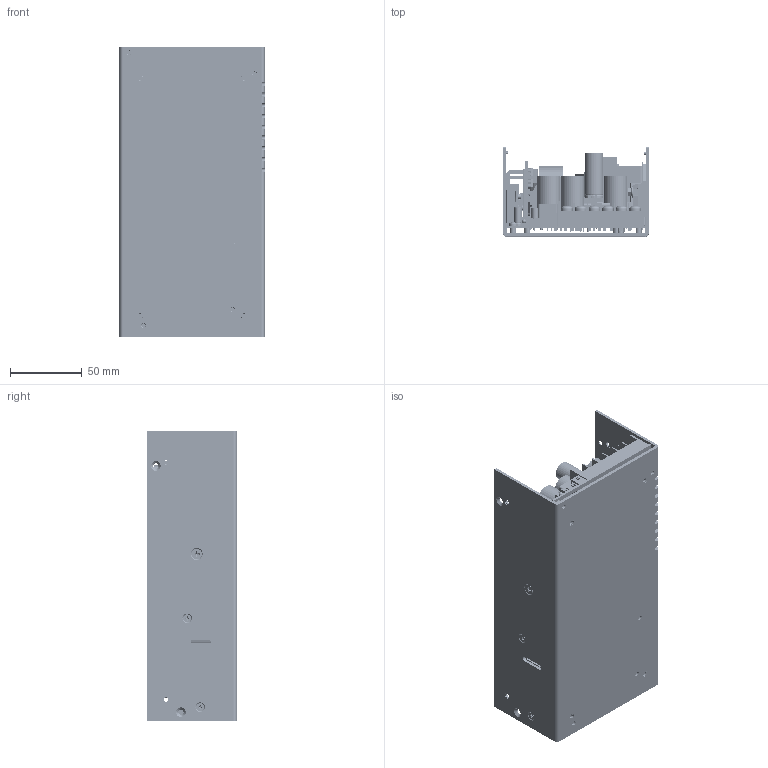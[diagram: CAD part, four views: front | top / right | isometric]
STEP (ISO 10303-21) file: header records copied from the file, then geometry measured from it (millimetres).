
FILE_DESCRIPTION (( 'STEP AP203' ), '1' );
FILE_NAME ('FINAL ASSY SHP650 U CHANNEL.STEP', '2010-11-01T07:43:05', ( 'Leonard Torio' ), ( 'Hewlett-Packard Company' ), 'SwSTEP 2.0', 'SolidWorks 2010', '' );
FILE_SCHEMA (( 'CONFIG_CONTROL_DESIGN' ));
Length unit declared in the file: millimetre
Products named in the file (104): Retainer Metric 2X TO-218 Package (10001662); INSULATOR  OUTPUT DIODE(1000XXXX); SCREW M3_5X12 PFH 90 DEG CLR (10001674) ; INSULATOR BUSHING (300045); INSULATOR SLEEVE TO-247 (10000709); FINAL ASSY SHP650 U CHANNEL; 10007596 (U Channel Formed); CFLM3-1; ASSY PCB MAINBOARD SHP650 (10007586); PCB MAINBOARD SHP650 (10007774); ASSY HEATSINK DIODE COMPLETE; HTSK SECONDARY (10007599); INSUL DIODE (10007766); BUSBAR SECONDARY (10007600); TO247_3P; BUSBAR SECONDARY 5( 10008581); BUSBAR SECONDARY 2 (10007601); ASSY PRIMARY HTSK; 10007598; TO247 WITH TUBE; T0220 WITH TUBE; HTSK BRIDGE; HEATSINK BRIDGE (10007597); HTSK LEG CLIP(10007602); Bridge Rectifier_D20XB60; Connector_SIP_1X19P_2mm_ RA; SOIC PACKAGE; SO14 PACKAGE; OPTO_SMD; PCB_CAP BOARD; Capacitor Elec_13mm D; BBAR SECONDARY 3 (10007767); TERMINAL BLOCK 3P 3_5MM SCREW 9_5MM VER (10007696)_3P; TAPE EXTERNAL; Part1^ASSY TRF EER42 TYPE1; TERMINAL BLOCK 6P M4 SCREW 9_5MM CTR VER (10007698)_6P; Conn_JST_S10B-PHDSS-B_Vertical; AUX TRF; TRANSFORMER CURENT SENSE; GATE DRIVE TRF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
Assembly tree (172 placements, depth 5):
  FINAL ASSY SHP650 U CHANNEL
    10007596 (U Channel Formed)
      CFLM3-1  x8
      10007596 (U Channel Formed)
      CFSOM3-6  x5
    SCREW M3X6MM PPH SQ CONE CLR STL Z1 (10006712)  x5
    SCREW M3_5X12 PFH 90 DEG CLR (10001674) 
    M3X10 PFH 90DEG (10001671)  x3
    NUT HEX M3 KEPS CLR STL Z1 (10001680)_M3  x2
    M3X6 PFH 90 DEG CLR (10001669)  x2
    Washer Flat M3 7MM OD(10001676)_M3 (.5 MM THICK)  x2
    INSULATOR SLEEVE TO-247 (10000709)  x2
    ASSY PCB MAINBOARD SHP650 (10007586)
      TO220_3P_01  x3
      Capacitor Elec_06mm D_10mm H
      Capacitor Elec_30mm D_30mm H  x2
      Fuse 5X20 216P
      CORE-BBAR 4 ASSY
        CORE TOROID T51-26C(10000826)  x2
        BBAR SECONDARY 4 (10007768)
      ASSY PCB CAP BOARD
        PCB_CAP BOARD
        Capacitor Elec_13mm D
      PCB MAINBOARD SHP650 (10007774)
      Capacitor Elec_16mm D_35  x3
      Capacitor Disc_0.300 D_0.200" C  x2
      Capacitor Film_31x16_21mm H
      ASSY HEATSINK DIODE COMPLETE
        TO247_3P
        CORE EMI BEADS OD=3_7MM MAX (10007812)  x8
        NUT HEX M3 KEPS CLR STL Z1 (10001680)_M3  x4
        TO247_3P
        TO247_3P
        BUSBAR SECONDARY (10007600)
        TO247_3P
        BUSBAR SECONDARY 5( 10008581)
        HTSK SECONDARY (10007599)
          CHM3-12  x4
          HEATSINK SECONDARY (10007599)
        INSUL DIODE (10007766)
      ASSY PRIMARY HTSK
        Retainer Metric 2X TO-218 Package (10001662)
        SCREW M3_5X12 PFH 90 DEG CLR (10001674)   x2
        Retainer 2X TO220 (10001661)
        TO247 WITH TUBE
          INSULATOR SLEEVE TO-247 (10000709)
          TO247_3P
        T0220 WITH TUBE  x2
          INSULATOR SLEEVE TO-220
          TO220_3P_01
        10007598
          HEATSINK PRIMARY (10007598)
          HTSK LEG CLIP(10007602)  x2
        TO247 WITH TUBE
          INSULATOR SLEEVE TO-247 (10000709)
          TO247_3P
      TRANSFORMER CURENT SENSE
      Capacitor Elec_05mm D_10mm H  x3
      390002 TUBING SHRINK
      ASSY PCB DBOARD
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Bounding box: 101.6 x 62.5 x 203.2 mm (x, y, z)
Volume: 410191.3 mm3; surface area: 385580.9 mm2
Topology: 162 solids, 185 shells, 6349 faces, 15467 edges, 9824 vertices
Faces by surface type: plane 4179, cylinder 1473, cone 428, torus 196, bspline 59, sphere 14
Entity records: 141559 total; most frequent: CARTESIAN_POINT 23424, DIRECTION 21908, ORIENTED_EDGE 21336, EDGE_CURVE 10668, VECTOR 8216, LINE 8216, AXIS2_PLACEMENT_3D 6846, VERTEX_POINT 6824
